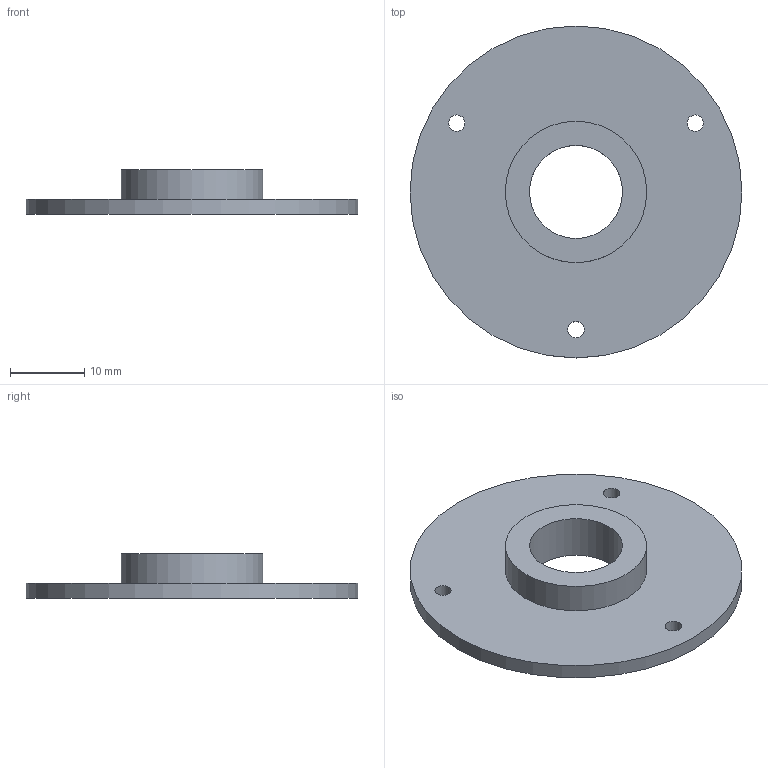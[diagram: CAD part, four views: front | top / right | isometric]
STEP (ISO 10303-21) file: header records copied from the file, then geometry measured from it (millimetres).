
FILE_DESCRIPTION(('Open CASCADE Model'),'2;1');
FILE_NAME('CM_backplate','2026-11-05T16:12:25',('Author'),( 'Open CASCADE'),'Open CASCADE STEP processor 7.9','build123d', 'Unknown');
FILE_SCHEMA(('AUTOMOTIVE_DESIGN { 1 0 10303 214 1 1 1 1 }'));
Length unit declared in the file: millimetre
Products named in the file (2): CM_backplate
Assembly tree (1 placements, depth 2):
  CM_backplate
    CM_backplate
Bounding box: 44.6 x 44.6 x 6 mm (x, y, z)
Volume: 3499.6 mm3; surface area: 3652.4 mm2
Topology: 1 solids, 1 shells, 9 faces, 18 edges, 12 vertices
Faces by surface type: cylinder 6, plane 3
Full cylindrical faces by diameter (mm): 2.2 x3, 12.5 x1, 19 x1, 44.6 x1
Entity records: 546 total; most frequent: DIRECTION 88, CARTESIAN_POINT 77, ORIENTED_EDGE 36, PCURVE 36, DEFINITIONAL_REPRESENTATION 36, LINE 30, VECTOR 30, CIRCLE 24
